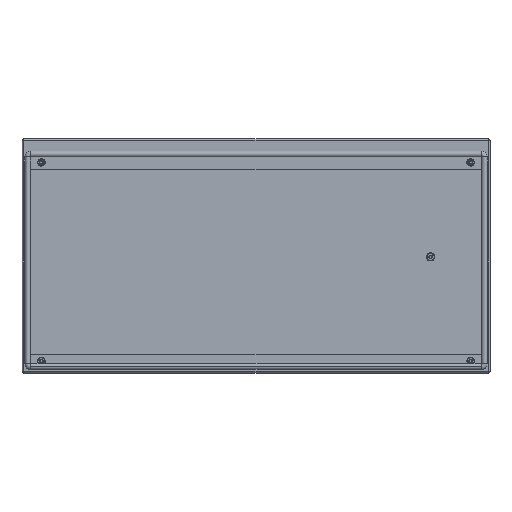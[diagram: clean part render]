
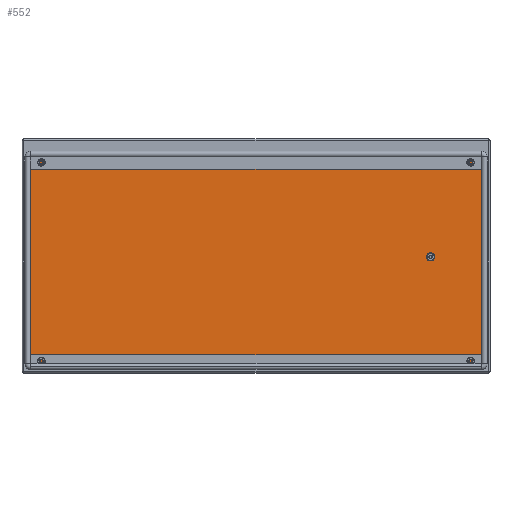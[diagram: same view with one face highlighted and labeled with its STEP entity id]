
A CAD part, top view. The second image highlights one B-rep face of the part: STEP entity #552.
In plain terms, the highlighted planar face has unit normal (0, 0, 1).
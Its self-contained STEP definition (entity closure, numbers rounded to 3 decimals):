
#209 = CIRCLE ( 'NONE', #2288, 3. ) ;
#210 = CIRCLE ( 'NONE', #2292, 3. ) ;
#215 = CIRCLE ( 'NONE', #2273, 4. ) ;
#255 = CIRCLE ( 'NONE', #2224, 3. ) ;
#258 = CIRCLE ( 'NONE', #2212, 3. ) ;
#265 = CIRCLE ( 'NONE', #2204, 4. ) ;
#393 = EDGE_CURVE ( 'NONE', #1769, #1768, #265, .T. ) ;
#420 = EDGE_CURVE ( 'NONE', #1752, #1758, #258, .T. ) ;
#423 = EDGE_CURVE ( 'NONE', #1757, #1756, #255, .T. ) ;
#474 = EDGE_CURVE ( 'NONE', #1756, #1755, #1093, .T. ) ;
#476 = EDGE_CURVE ( 'NONE', #1758, #1757, #1087, .T. ) ;
#483 = EDGE_CURVE ( 'NONE', #1754, #1753, #1066, .T. ) ;
#504 = EDGE_CURVE ( 'NONE', #1768, #1769, #215, .T. ) ;
#513 = EDGE_CURVE ( 'NONE', #1755, #1754, #210, .T. ) ;
#515 = EDGE_CURVE ( 'NONE', #1753, #1889, #209, .T. ) ;
#516 = EDGE_CURVE ( 'NONE', #1889, #1752, #973, .T. ) ;
#552 = ADVANCED_FACE ( 'NONE', ( #2377, #2379 ), #3031, .T. ) ;
#971 = DIRECTION ( 'NONE',  ( -1., 0., 0. ) ) ;
#972 = CARTESIAN_POINT ( 'NONE',  ( 400., 198.5, 0. ) ) ;
#973 = LINE ( 'NONE', #972, #2298 ) ;
#975 = DIRECTION ( 'NONE',  ( 1., 0., 0. ) ) ;
#976 = DIRECTION ( 'NONE',  ( 0., 0., 1. ) ) ;
#980 = CARTESIAN_POINT ( 'NONE',  ( 395.5, 195.5, 0. ) ) ;
#981 = DIRECTION ( 'NONE',  ( 1., 0., 0. ) ) ;
#982 = DIRECTION ( 'NONE',  ( 0., 0., 1. ) ) ;
#986 = CARTESIAN_POINT ( 'NONE',  ( 395.5, -195.5, 0. ) ) ;
#1002 = DIRECTION ( 'NONE',  ( -1., 0., 0. ) ) ;
#1003 = DIRECTION ( 'NONE',  ( 0., 0., -1. ) ) ;
#1004 = CARTESIAN_POINT ( 'NONE',  ( 298.5, -1.5, 0. ) ) ;
#1064 = DIRECTION ( 'NONE',  ( 0., 1., 0. ) ) ;
#1065 = CARTESIAN_POINT ( 'NONE',  ( 398.5, -200., 0. ) ) ;
#1066 = LINE ( 'NONE', #1065, #2267 ) ;
#1085 = DIRECTION ( 'NONE',  ( 0., -1., 0. ) ) ;
#1086 = CARTESIAN_POINT ( 'NONE',  ( -398.5, -200., 0. ) ) ;
#1087 = LINE ( 'NONE', #1086, #2259 ) ;
#1091 = DIRECTION ( 'NONE',  ( 1., 0., 0. ) ) ;
#1092 = CARTESIAN_POINT ( 'NONE',  ( 400., -198.5, 0. ) ) ;
#1093 = LINE ( 'NONE', #1092, #2256 ) ;
#1188 = DIRECTION ( 'NONE',  ( 1., 0., 0. ) ) ;
#1189 = DIRECTION ( 'NONE',  ( 0., 0., 1. ) ) ;
#1190 = CARTESIAN_POINT ( 'NONE',  ( -395.5, -195.5, 0. ) ) ;
#1197 = DIRECTION ( 'NONE',  ( 1., 0., 0. ) ) ;
#1198 = DIRECTION ( 'NONE',  ( 0., 0., 1. ) ) ;
#1199 = CARTESIAN_POINT ( 'NONE',  ( -395.5, 195.5, 0. ) ) ;
#1236 = DIRECTION ( 'NONE',  ( -1., 0., 0. ) ) ;
#1237 = DIRECTION ( 'NONE',  ( 0., 0., -1. ) ) ;
#1247 = CARTESIAN_POINT ( 'NONE',  ( 298.5, -1.5, 0. ) ) ;
#1518 = ORIENTED_EDGE ( 'NONE', *, *, #476, .T. ) ;
#1616 = ORIENTED_EDGE ( 'NONE', *, *, #423, .T. ) ;
#1617 = ORIENTED_EDGE ( 'NONE', *, *, #513, .T. ) ;
#1647 = ORIENTED_EDGE ( 'NONE', *, *, #474, .T. ) ;
#1653 = ORIENTED_EDGE ( 'NONE', *, *, #515, .T. ) ;
#1693 = ORIENTED_EDGE ( 'NONE', *, *, #483, .T. ) ;
#1694 = ORIENTED_EDGE ( 'NONE', *, *, #516, .T. ) ;
#1697 = ORIENTED_EDGE ( 'NONE', *, *, #420, .T. ) ;
#1752 = VERTEX_POINT ( 'NONE', #2828 ) ;
#1753 = VERTEX_POINT ( 'NONE', #2825 ) ;
#1754 = VERTEX_POINT ( 'NONE', #2834 ) ;
#1755 = VERTEX_POINT ( 'NONE', #2831 ) ;
#1756 = VERTEX_POINT ( 'NONE', #2833 ) ;
#1757 = VERTEX_POINT ( 'NONE', #2832 ) ;
#1758 = VERTEX_POINT ( 'NONE', #2830 ) ;
#1768 = VERTEX_POINT ( 'NONE', #2995 ) ;
#1769 = VERTEX_POINT ( 'NONE', #2994 ) ;
#1889 = VERTEX_POINT ( 'NONE', #2161 ) ;
#2068 = ORIENTED_EDGE ( 'NONE', *, *, #504, .T. ) ;
#2069 = ORIENTED_EDGE ( 'NONE', *, *, #393, .T. ) ;
#2161 = CARTESIAN_POINT ( 'NONE',  ( 395.5, 198.5, 0. ) ) ;
#2204 = AXIS2_PLACEMENT_3D ( 'NONE', #1247, #1237, #1236 ) ;
#2212 = AXIS2_PLACEMENT_3D ( 'NONE', #1199, #1198, #1197 ) ;
#2224 = AXIS2_PLACEMENT_3D ( 'NONE', #1190, #1189, #1188 ) ;
#2256 = VECTOR ( 'NONE', #1091, 1000. ) ;
#2259 = VECTOR ( 'NONE', #1085, 1000. ) ;
#2267 = VECTOR ( 'NONE', #1064, 1000. ) ;
#2273 = AXIS2_PLACEMENT_3D ( 'NONE', #1004, #1003, #1002 ) ;
#2288 = AXIS2_PLACEMENT_3D ( 'NONE', #980, #976, #975 ) ;
#2292 = AXIS2_PLACEMENT_3D ( 'NONE', #986, #982, #981 ) ;
#2298 = VECTOR ( 'NONE', #971, 1000. ) ;
#2377 = FACE_OUTER_BOUND ( 'NONE', #2701, .T. ) ;
#2379 = FACE_BOUND ( 'NONE', #2652, .T. ) ;
#2381 = AXIS2_PLACEMENT_3D ( 'NONE', #3033, #3034, #3032 ) ;
#2652 = EDGE_LOOP ( 'NONE', ( #2068, #2069 ) ) ;
#2701 = EDGE_LOOP ( 'NONE', ( #1518, #1616, #1647, #1617, #1693, #1653, #1694, #1697 ) ) ;
#2825 = CARTESIAN_POINT ( 'NONE',  ( 398.5, 195.5, 0. ) ) ;
#2828 = CARTESIAN_POINT ( 'NONE',  ( -395.5, 198.5, 0. ) ) ;
#2830 = CARTESIAN_POINT ( 'NONE',  ( -398.5, 195.5, 0. ) ) ;
#2831 = CARTESIAN_POINT ( 'NONE',  ( 395.5, -198.5, 0. ) ) ;
#2832 = CARTESIAN_POINT ( 'NONE',  ( -398.5, -195.5, 0. ) ) ;
#2833 = CARTESIAN_POINT ( 'NONE',  ( -395.5, -198.5, 0. ) ) ;
#2834 = CARTESIAN_POINT ( 'NONE',  ( 398.5, -195.5, 0. ) ) ;
#2994 = CARTESIAN_POINT ( 'NONE',  ( 294.5, -1.5, 0. ) ) ;
#2995 = CARTESIAN_POINT ( 'NONE',  ( 302.5, -1.5, 0. ) ) ;
#3031 = PLANE ( 'NONE',  #2381 ) ;
#3032 = DIRECTION ( 'NONE',  ( 1., 0., 0. ) ) ;
#3033 = CARTESIAN_POINT ( 'NONE',  ( 0., 0., 0. ) ) ;
#3034 = DIRECTION ( 'NONE',  ( 0., 0., 1. ) ) ;
